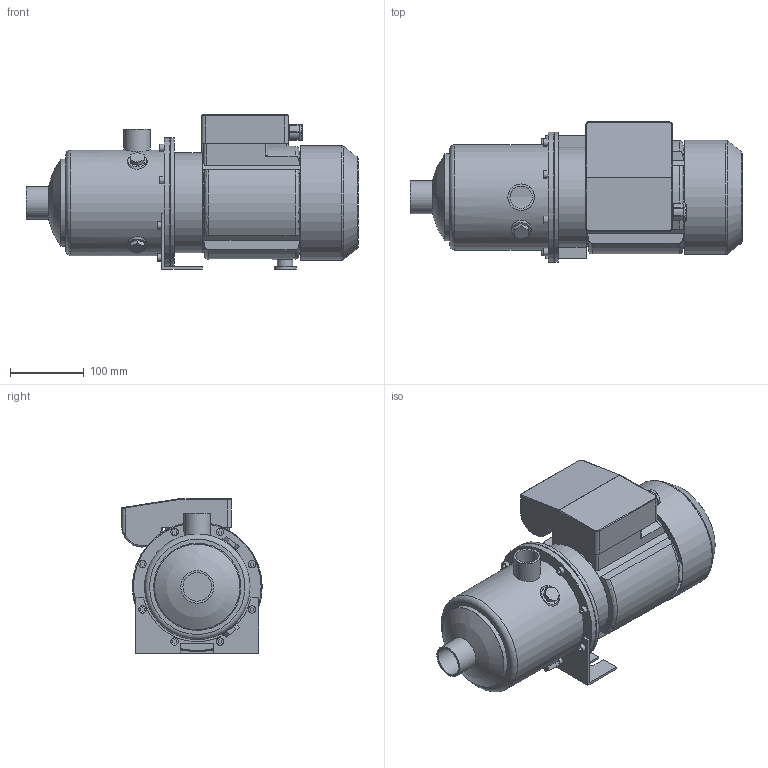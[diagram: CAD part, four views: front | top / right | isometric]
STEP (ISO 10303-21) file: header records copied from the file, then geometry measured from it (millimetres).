
FILE_DESCRIPTION(/* description */ ('Unknown'),/* implementation_level */ '2;1');
FILE_NAME(/* name */ 'MH 5 [5] M',/* time_stamp */ '2026-07-10T14:58:41+02:00',/* author */ ('Unknown'),/* organization */ ('Unknown'),/* preprocessor_version */ 'ST-DEVELOPER v20',/* originating_system */ 'Solid Edge',/* authorisation */ 'Unknown');
FILE_SCHEMA (('AUTOMOTIVE_DESIGN {1 0 10303 214 3 1 1}'));
Length unit declared in the file: millimetre
Products named in the file (10): MH 5 [5] M; Flangia motore Tonda M80; Corpo MH 3-5 [5]; Mot_Wendy_MEC80_11-15_M; carcassa MEC 80-Wendy; Copriventola MEC 80-Wendy; Basetta MEC 80 M-Wendy_new; 1; Piedino MEC 80 int.90; Staffa 3-5-9 int.90
Assembly tree (9 placements, depth 3):
  MH 5 [5] M
    Flangia motore Tonda M80
    Corpo MH 3-5 [5]
    Mot_Wendy_MEC80_11-15_M
      carcassa MEC 80-Wendy
      Copriventola MEC 80-Wendy
      Basetta MEC 80 M-Wendy_new
      1
    Piedino MEC 80 int.90
    Staffa 3-5-9 int.90
Bounding box: 451.1 x 190.75 x 209.5 mm (x, y, z)
Volume: 2623790.9 mm3; surface area: 603267.3 mm2
Topology: 8 solids, 8 shells, 287 faces, 678 edges, 447 vertices
Faces by surface type: plane 169, cylinder 79, torus 19, cone 14, bspline 4, sphere 2
Full cylindrical faces by diameter (mm): 7 x4, 10 x9, 12 x1, 15 x1, 16.5 x1, 21 x1, 30 x1, 30.291 x1, 36 x1, 38.952 x1, 44.5 x1, 116.1 x1, 118.5 x1, 125 x1, 130 x3, 134 x1, 136 x1, 141.1 x1, 143.5 x1, 153.5 x1, 155.5 x1, 173.5 x1, 174.1 x1, 176.5 x2
Entity records: 9308 total; most frequent: CARTESIAN_POINT 1776, DIRECTION 1316, ORIENTED_EDGE 1180, EDGE_CURVE 590, AXIS2_PLACEMENT_3D 487, VERTEX_POINT 417, EDGE_LOOP 395, FACE_BOUND 395
